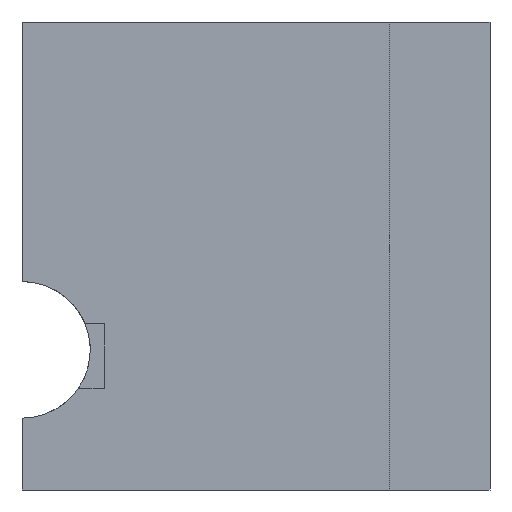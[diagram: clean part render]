
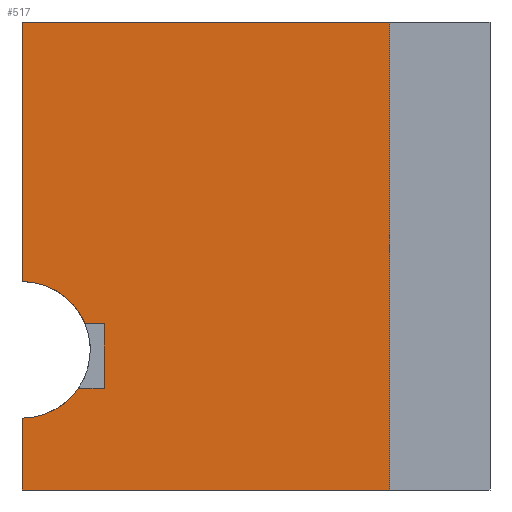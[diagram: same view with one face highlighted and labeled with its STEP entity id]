
A CAD part, front view. The second image highlights one B-rep face of the part: STEP entity #517.
In plain terms, the highlighted planar face has unit normal (0, -1, 0).
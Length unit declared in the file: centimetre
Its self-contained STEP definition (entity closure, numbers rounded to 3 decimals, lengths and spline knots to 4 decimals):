
#4 = CARTESIAN_POINT ( 'NONE',  ( 0., 0., 1000. ) ) ;
#13 = VECTOR ( 'NONE', #659, 100. ) ;
#14 = ORIENTED_EDGE ( 'NONE', *, *, #18, .F. ) ;
#18 = EDGE_CURVE ( 'NONE', #229, #163, #351, .T. ) ;
#40 = ORIENTED_EDGE ( 'NONE', *, *, #606, .F. ) ;
#44 = CARTESIAN_POINT ( 'NONE',  ( 785.4895, 0., 1000. ) ) ;
#69 = EDGE_CURVE ( 'NONE', #693, #163, #541, .T. ) ;
#89 = EDGE_CURVE ( 'NONE', #188, #271, #126, .T. ) ;
#92 = CARTESIAN_POINT ( 'NONE',  ( 0., 0., 1000. ) ) ;
#96 = VERTEX_POINT ( 'NONE', #394 ) ;
#99 = VERTEX_POINT ( 'NONE', #247 ) ;
#107 = EDGE_CURVE ( 'NONE', #335, #99, #180, .T. ) ;
#115 = VERTEX_POINT ( 'NONE', #241 ) ;
#126 = LINE ( 'NONE', #597, #812 ) ;
#153 = LINE ( 'NONE', #92, #824 ) ;
#161 = ORIENTED_EDGE ( 'NONE', *, *, #419, .T. ) ;
#163 = VERTEX_POINT ( 'NONE', #592 ) ;
#180 = CIRCLE ( 'NONE', #235, 145.9168 ) ;
#188 = VERTEX_POINT ( 'NONE', #870 ) ;
#207 = FACE_OUTER_BOUND ( 'NONE', #782, .T. ) ;
#218 = DIRECTION ( 'NONE',  ( -1., 0., 0. ) ) ;
#220 = CARTESIAN_POINT ( 'NONE',  ( 134.965, 0., 354.9393 ) ) ;
#229 = VERTEX_POINT ( 'NONE', #220 ) ;
#235 = AXIS2_PLACEMENT_3D ( 'NONE', #604, #810, #733 ) ;
#236 = CARTESIAN_POINT ( 'NONE',  ( 0., 0., 153.5591 ) ) ;
#241 = CARTESIAN_POINT ( 'NONE',  ( 176.163, 0., 354.9393 ) ) ;
#242 = CARTESIAN_POINT ( 'NONE',  ( 176.163, 0., 217.4756 ) ) ;
#247 = CARTESIAN_POINT ( 'NONE',  ( 120.6966, 0., 217.4756 ) ) ;
#249 = ORIENTED_EDGE ( 'NONE', *, *, #89, .T. ) ;
#258 = VECTOR ( 'NONE', #218, 100. ) ;
#266 = CARTESIAN_POINT ( 'NONE',  ( 176.163, 0., 217.4756 ) ) ;
#268 = EDGE_CURVE ( 'NONE', #96, #271, #649, .T. ) ;
#271 = VERTEX_POINT ( 'NONE', #438 ) ;
#275 = DIRECTION ( 'NONE',  ( 0., 1., 0. ) ) ;
#294 = CARTESIAN_POINT ( 'NONE',  ( 0., 0., 1000. ) ) ;
#309 = DIRECTION ( 'NONE',  ( 1., 0., 0. ) ) ;
#310 = DIRECTION ( 'NONE',  ( 0., 0., -1. ) ) ;
#322 = ORIENTED_EDGE ( 'NONE', *, *, #455, .F. ) ;
#335 = VERTEX_POINT ( 'NONE', #236 ) ;
#345 = DIRECTION ( 'NONE',  ( 0., -1., 0. ) ) ;
#351 = CIRCLE ( 'NONE', #698, 145.9168 ) ;
#352 = CARTESIAN_POINT ( 'NONE',  ( 0., 0., 354.9393 ) ) ;
#354 = ORIENTED_EDGE ( 'NONE', *, *, #456, .F. ) ;
#378 = CARTESIAN_POINT ( 'NONE',  ( 0., 0., 217.4756 ) ) ;
#388 = LINE ( 'NONE', #599, #13 ) ;
#394 = CARTESIAN_POINT ( 'NONE',  ( 785.4895, 0., 1000. ) ) ;
#419 = EDGE_CURVE ( 'NONE', #335, #188, #388, .T. ) ;
#432 = DIRECTION ( 'NONE',  ( 1., 0., 0. ) ) ;
#438 = CARTESIAN_POINT ( 'NONE',  ( 785.4895, 0., 0. ) ) ;
#448 = LINE ( 'NONE', #378, #611 ) ;
#454 = DIRECTION ( 'NONE',  ( 1., 0., 0. ) ) ;
#455 = EDGE_CURVE ( 'NONE', #99, #572, #448, .T. ) ;
#456 = EDGE_CURVE ( 'NONE', #572, #115, #863, .T. ) ;
#479 = ORIENTED_EDGE ( 'NONE', *, *, #69, .T. ) ;
#480 = PLANE ( 'NONE',  #566 ) ;
#510 = VECTOR ( 'NONE', #524, 100. ) ;
#517 = ADVANCED_FACE ( 'NONE', ( #207 ), #480, .F. ) ;
#524 = DIRECTION ( 'NONE',  ( 0., 0., 1. ) ) ;
#536 = CARTESIAN_POINT ( 'NONE',  ( 0., 0., 1000. ) ) ;
#541 = LINE ( 'NONE', #536, #730 ) ;
#556 = CARTESIAN_POINT ( 'NONE',  ( 0., 0., 299.476 ) ) ;
#563 = DIRECTION ( 'NONE',  ( 0., 0., -1. ) ) ;
#566 = AXIS2_PLACEMENT_3D ( 'NONE', #4, #275, #880 ) ;
#572 = VERTEX_POINT ( 'NONE', #266 ) ;
#592 = CARTESIAN_POINT ( 'NONE',  ( 0., 0., 445.3928 ) ) ;
#597 = CARTESIAN_POINT ( 'NONE',  ( 0., 0., 0. ) ) ;
#599 = CARTESIAN_POINT ( 'NONE',  ( 0., 0., 1000. ) ) ;
#604 = CARTESIAN_POINT ( 'NONE',  ( 0., 0., 299.476 ) ) ;
#606 = EDGE_CURVE ( 'NONE', #115, #229, #687, .T. ) ;
#611 = VECTOR ( 'NONE', #309, 100. ) ;
#619 = EDGE_CURVE ( 'NONE', #693, #96, #153, .T. ) ;
#625 = DIRECTION ( 'NONE',  ( 0., 0., -1. ) ) ;
#649 = LINE ( 'NONE', #44, #797 ) ;
#659 = DIRECTION ( 'NONE',  ( 0., 0., -1. ) ) ;
#667 = ORIENTED_EDGE ( 'NONE', *, *, #619, .F. ) ;
#687 = LINE ( 'NONE', #352, #258 ) ;
#693 = VERTEX_POINT ( 'NONE', #294 ) ;
#698 = AXIS2_PLACEMENT_3D ( 'NONE', #556, #345, #625 ) ;
#730 = VECTOR ( 'NONE', #310, 100. ) ;
#733 = DIRECTION ( 'NONE',  ( 0., 0., -1. ) ) ;
#777 = ORIENTED_EDGE ( 'NONE', *, *, #107, .F. ) ;
#782 = EDGE_LOOP ( 'NONE', ( #14, #40, #354, #322, #777, #161, #249, #789, #667, #479 ) ) ;
#789 = ORIENTED_EDGE ( 'NONE', *, *, #268, .F. ) ;
#797 = VECTOR ( 'NONE', #563, 100. ) ;
#810 = DIRECTION ( 'NONE',  ( 0., -1., 0. ) ) ;
#812 = VECTOR ( 'NONE', #454, 100. ) ;
#824 = VECTOR ( 'NONE', #432, 100. ) ;
#863 = LINE ( 'NONE', #242, #510 ) ;
#870 = CARTESIAN_POINT ( 'NONE',  ( 0., 0., 0. ) ) ;
#880 = DIRECTION ( 'NONE',  ( 0., 0., 1. ) ) ;
